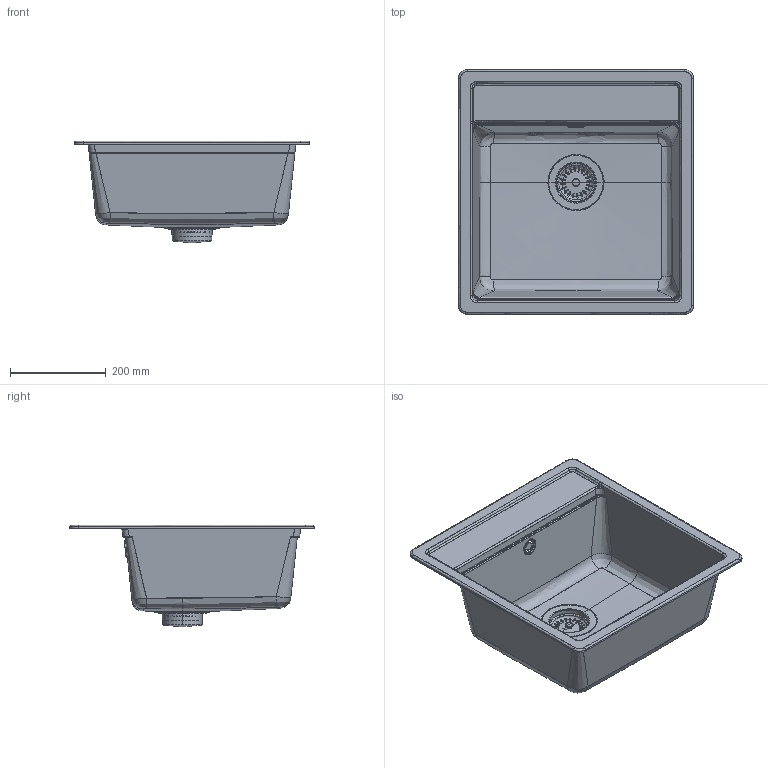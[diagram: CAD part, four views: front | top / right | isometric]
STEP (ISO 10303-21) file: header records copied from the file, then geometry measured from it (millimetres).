
FILE_DESCRIPTION(/* description */ (''),/* implementation_level */ '2;1');
FILE_NAME(/* name */ 'MONN100S',/* time_stamp */ '2016-11-02T17:10:11+01:00',/* author */ (''),/* organization */ (''),/* preprocessor_version */ 'ST-DEVELOPER v15',/* originating_system */ '',/* authorisation */ '');
FILE_SCHEMA (('AUTOMOTIVE_DESIGN'));
Length unit declared in the file: millimetre
Products named in the file (1): Document
Bounding box: 490 x 510 x 212.25 mm (x, y, z)
Volume: 31105.3 mm3; surface area: 510888.5 mm2
Topology: 3 solids, 166 shells, 344 faces, 1207 edges, 984 vertices
Faces by surface type: bspline 324, plane 20
Entity records: 58453 total; most frequent: CARTESIAN_POINT 51691, ORIENTED_EDGE 1793, EDGE_CURVE 1197, VERTEX_POINT 984, B_SPLINE_CURVE_WITH_KNOTS 938, EDGE_LOOP 431, ADVANCED_FACE 344, FACE_OUTER_BOUND 344
